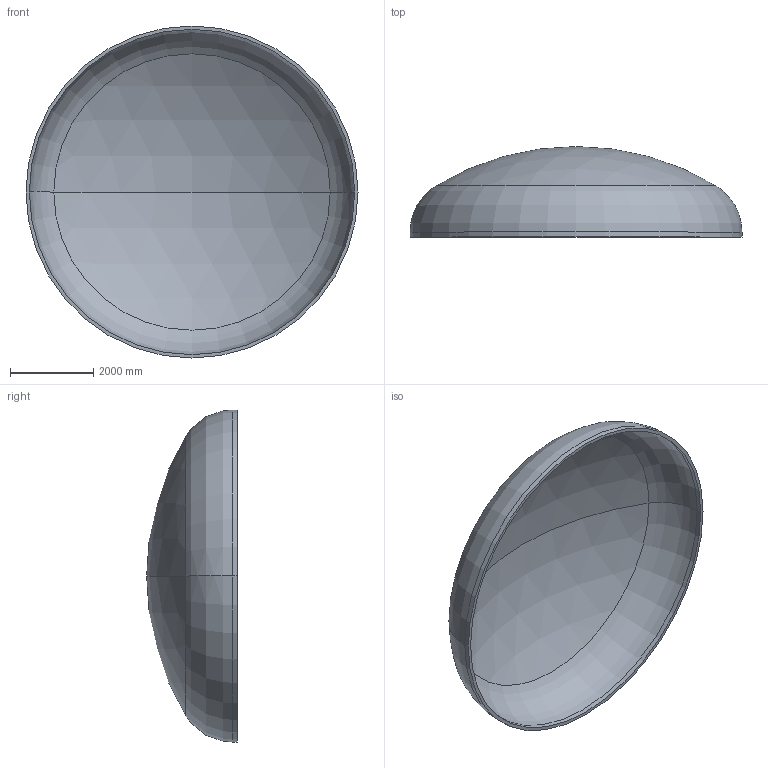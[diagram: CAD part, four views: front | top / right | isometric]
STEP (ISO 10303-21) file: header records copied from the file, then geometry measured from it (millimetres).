
FILE_DESCRIPTION (( 'STEP AP203' ), '1' );
FILE_NAME ('DIN 28013 Korbbogenform_-_Boden DIN 28013 - 8000 x 120 - I - s=80.step', '2016-07-04T11:04:00', ( '' ), ( '' ), 'SwSTEP 2.0', 'SolidWorks 2013', '' );
FILE_SCHEMA (( 'CONFIG_CONTROL_DESIGN' ));
Length unit declared in the file: millimetre
Products named in the file (1): DIN 28013 Korbbogenform_-_Boden DIN 28013 - 8000 x 120 - I - s=80
Bounding box: 8000 x 2184.93 x 8000 mm (x, y, z)
Volume: 5733302153 mm3; surface area: 145336415.5 mm2
Topology: 1 solids, 1 shells, 13 faces, 24 edges, 14 vertices
Faces by surface type: torus 4, cylinder 4, sphere 4, plane 1
Entity records: 407 total; most frequent: DIRECTION 72, CARTESIAN_POINT 52, ORIENTED_EDGE 48, AXIS2_PLACEMENT_3D 34, EDGE_CURVE 24, CIRCLE 20, VERTEX_POINT 14, EDGE_LOOP 14
